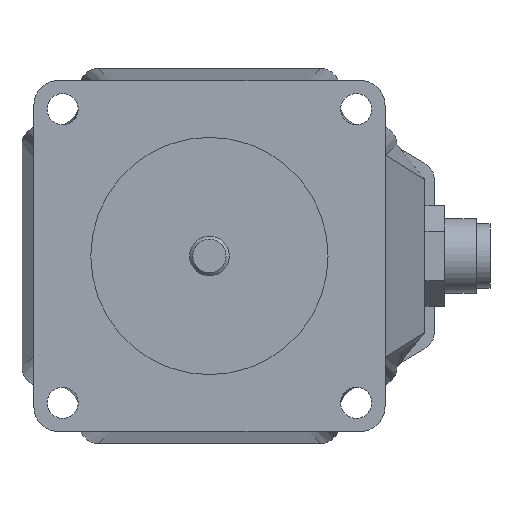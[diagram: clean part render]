
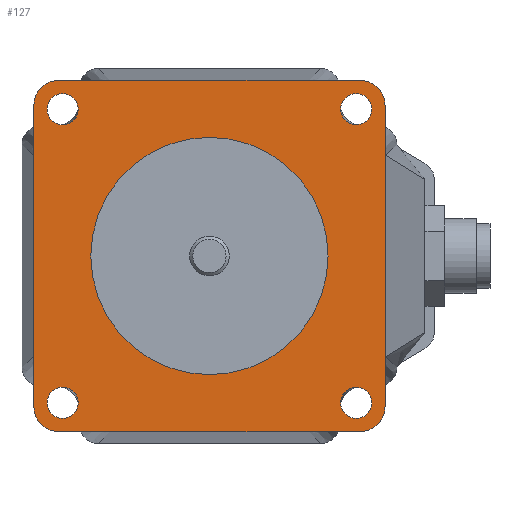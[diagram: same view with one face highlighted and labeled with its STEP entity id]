
A CAD part, left-side view. The second image highlights one B-rep face of the part: STEP entity #127.
In plain terms, the highlighted planar face has unit normal (-1, 0, 0).
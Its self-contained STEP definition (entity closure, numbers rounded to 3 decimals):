
#127 = ADVANCED_FACE( '', ( #327, #328, #329, #330, #331, #332 ), #333, .T. );
#327 = FACE_BOUND( '', #1049, .T. );
#328 = FACE_BOUND( '', #1050, .T. );
#329 = FACE_BOUND( '', #1051, .T. );
#330 = FACE_BOUND( '', #1052, .T. );
#331 = FACE_OUTER_BOUND( '', #1053, .T. );
#332 = FACE_BOUND( '', #1054, .T. );
#333 = PLANE( '', #1055 );
#1049 = EDGE_LOOP( '', ( #2782 ) );
#1050 = EDGE_LOOP( '', ( #2783 ) );
#1051 = EDGE_LOOP( '', ( #2784 ) );
#1052 = EDGE_LOOP( '', ( #2785 ) );
#1053 = EDGE_LOOP( '', ( #2786, #2787, #2788, #2789, #2790, #2791, #2792, #2793 ) );
#1054 = EDGE_LOOP( '', ( #2794 ) );
#1055 = AXIS2_PLACEMENT_3D( '', #2795, #2796, #2797 );
#2782 = ORIENTED_EDGE( '', *, *, #3504, .F. );
#2783 = ORIENTED_EDGE( '', *, *, #3505, .F. );
#2784 = ORIENTED_EDGE( '', *, *, #3506, .F. );
#2785 = ORIENTED_EDGE( '', *, *, #3507, .F. );
#2786 = ORIENTED_EDGE( '', *, *, #3426, .T. );
#2787 = ORIENTED_EDGE( '', *, *, #3508, .T. );
#2788 = ORIENTED_EDGE( '', *, *, #3509, .T. );
#2789 = ORIENTED_EDGE( '', *, *, #3510, .T. );
#2790 = ORIENTED_EDGE( '', *, *, #3511, .T. );
#2791 = ORIENTED_EDGE( '', *, *, #3512, .T. );
#2792 = ORIENTED_EDGE( '', *, *, #3513, .T. );
#2793 = ORIENTED_EDGE( '', *, *, #3514, .T. );
#2794 = ORIENTED_EDGE( '', *, *, #3503, .F. );
#2795 = CARTESIAN_POINT( '', ( -98., 24.2, 24.2 ) );
#2796 = DIRECTION( '', ( -1., 0., 0. ) );
#2797 = DIRECTION( '', ( 0., 0., 1. ) );
#3426 = EDGE_CURVE( '', #3777, #3775, #3778, .T. );
#3503 = EDGE_CURVE( '', #3910, #3910, #3911, .T. );
#3504 = EDGE_CURVE( '', #3912, #3912, #3913, .T. );
#3505 = EDGE_CURVE( '', #3914, #3914, #3915, .T. );
#3506 = EDGE_CURVE( '', #3916, #3916, #3917, .T. );
#3507 = EDGE_CURVE( '', #3918, #3918, #3919, .T. );
#3508 = EDGE_CURVE( '', #3775, #3920, #3921, .T. );
#3509 = EDGE_CURVE( '', #3920, #3922, #3923, .T. );
#3510 = EDGE_CURVE( '', #3922, #3924, #3925, .T. );
#3511 = EDGE_CURVE( '', #3924, #3926, #3927, .T. );
#3512 = EDGE_CURVE( '', #3926, #3928, #3929, .T. );
#3513 = EDGE_CURVE( '', #3928, #3930, #3931, .T. );
#3514 = EDGE_CURVE( '', #3930, #3777, #3932, .T. );
#3775 = VERTEX_POINT( '', #4363 );
#3777 = VERTEX_POINT( '', #4366 );
#3778 = LINE( '', #4367, #4368 );
#3910 = VERTEX_POINT( '', #4577 );
#3911 = CIRCLE( '', #4578, 19.05 );
#3912 = VERTEX_POINT( '', #4579 );
#3913 = CIRCLE( '', #4580, 2.5 );
#3914 = VERTEX_POINT( '', #4581 );
#3915 = CIRCLE( '', #4582, 2.5 );
#3916 = VERTEX_POINT( '', #4583 );
#3917 = CIRCLE( '', #4584, 2.5 );
#3918 = VERTEX_POINT( '', #4585 );
#3919 = CIRCLE( '', #4586, 2.5 );
#3920 = VERTEX_POINT( '', #4587 );
#3921 = CIRCLE( '', #4588, 4. );
#3922 = VERTEX_POINT( '', #4589 );
#3923 = LINE( '', #4590, #4591 );
#3924 = VERTEX_POINT( '', #4592 );
#3925 = CIRCLE( '', #4593, 4. );
#3926 = VERTEX_POINT( '', #4594 );
#3927 = LINE( '', #4595, #4596 );
#3928 = VERTEX_POINT( '', #4597 );
#3929 = CIRCLE( '', #4598, 4. );
#3930 = VERTEX_POINT( '', #4599 );
#3931 = LINE( '', #4600, #4601 );
#3932 = CIRCLE( '', #4602, 4. );
#4363 = CARTESIAN_POINT( '', ( -98., 24.2, 28.2 ) );
#4366 = CARTESIAN_POINT( '', ( -98., -24.2, 28.2 ) );
#4367 = CARTESIAN_POINT( '', ( -98., -20.641, 28.2 ) );
#4368 = VECTOR( '', #5188, 1000. );
#4577 = CARTESIAN_POINT( '', ( -98., -19.05, 0. ) );
#4578 = AXIS2_PLACEMENT_3D( '', #5315, #5316, #5317 );
#4579 = CARTESIAN_POINT( '', ( -98., 23.57, 21.07 ) );
#4580 = AXIS2_PLACEMENT_3D( '', #5318, #5319, #5320 );
#4581 = CARTESIAN_POINT( '', ( -98., 23.57, -26.07 ) );
#4582 = AXIS2_PLACEMENT_3D( '', #5321, #5322, #5323 );
#4583 = CARTESIAN_POINT( '', ( -98., -23.57, -26.07 ) );
#4584 = AXIS2_PLACEMENT_3D( '', #5324, #5325, #5326 );
#4585 = CARTESIAN_POINT( '', ( -98., -23.57, 21.07 ) );
#4586 = AXIS2_PLACEMENT_3D( '', #5327, #5328, #5329 );
#4587 = CARTESIAN_POINT( '', ( -98., 28.2, 24.2 ) );
#4588 = AXIS2_PLACEMENT_3D( '', #5330, #5331, #5332 );
#4589 = CARTESIAN_POINT( '', ( -98., 28.2, -24.2 ) );
#4590 = CARTESIAN_POINT( '', ( -98., 28.2, 24.2 ) );
#4591 = VECTOR( '', #5333, 1000. );
#4592 = CARTESIAN_POINT( '', ( -98., 24.2, -28.2 ) );
#4593 = AXIS2_PLACEMENT_3D( '', #5334, #5335, #5336 );
#4594 = CARTESIAN_POINT( '', ( -98., -24.2, -28.2 ) );
#4595 = CARTESIAN_POINT( '', ( -98., 24.2, -28.2 ) );
#4596 = VECTOR( '', #5337, 1000. );
#4597 = CARTESIAN_POINT( '', ( -98., -28.2, -24.2 ) );
#4598 = AXIS2_PLACEMENT_3D( '', #5338, #5339, #5340 );
#4599 = CARTESIAN_POINT( '', ( -98., -28.2, 24.2 ) );
#4600 = CARTESIAN_POINT( '', ( -98., -28.2, -20.641 ) );
#4601 = VECTOR( '', #5341, 1000. );
#4602 = AXIS2_PLACEMENT_3D( '', #5342, #5343, #5344 );
#5188 = DIRECTION( '', ( 0., 1., 0. ) );
#5315 = CARTESIAN_POINT( '', ( -98., 0., 0. ) );
#5316 = DIRECTION( '', ( -1., 0., 0. ) );
#5317 = DIRECTION( '', ( 0., -1., 0. ) );
#5318 = CARTESIAN_POINT( '', ( -98., 23.57, 23.57 ) );
#5319 = DIRECTION( '', ( -1., 0., 0. ) );
#5320 = DIRECTION( '', ( 0., 0., -1. ) );
#5321 = CARTESIAN_POINT( '', ( -98., 23.57, -23.57 ) );
#5322 = DIRECTION( '', ( -1., 0., 0. ) );
#5323 = DIRECTION( '', ( 0., 0., -1. ) );
#5324 = CARTESIAN_POINT( '', ( -98., -23.57, -23.57 ) );
#5325 = DIRECTION( '', ( -1., 0., 0. ) );
#5326 = DIRECTION( '', ( 0., 0., -1. ) );
#5327 = CARTESIAN_POINT( '', ( -98., -23.57, 23.57 ) );
#5328 = DIRECTION( '', ( -1., 0., 0. ) );
#5329 = DIRECTION( '', ( 0., 0., -1. ) );
#5330 = CARTESIAN_POINT( '', ( -98., 24.2, 24.2 ) );
#5331 = DIRECTION( '', ( -1., 0., 0. ) );
#5332 = DIRECTION( '', ( 0., -1., 0. ) );
#5333 = DIRECTION( '', ( 0., 0., -1. ) );
#5334 = CARTESIAN_POINT( '', ( -98., 24.2, -24.2 ) );
#5335 = DIRECTION( '', ( -1., 0., 0. ) );
#5336 = DIRECTION( '', ( 0., -1., 0. ) );
#5337 = DIRECTION( '', ( 0., -1., 0. ) );
#5338 = CARTESIAN_POINT( '', ( -98., -24.2, -24.2 ) );
#5339 = DIRECTION( '', ( -1., 0., 0. ) );
#5340 = DIRECTION( '', ( 0., 1., 0. ) );
#5341 = DIRECTION( '', ( 0., 0., 1. ) );
#5342 = CARTESIAN_POINT( '', ( -98., -24.2, 24.2 ) );
#5343 = DIRECTION( '', ( -1., 0., 0. ) );
#5344 = DIRECTION( '', ( 0., -1., 0. ) );
